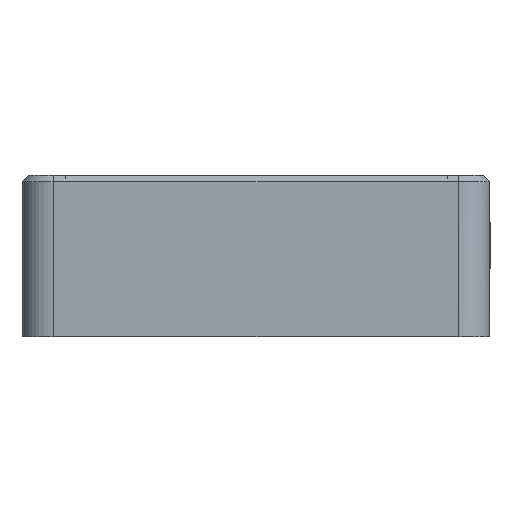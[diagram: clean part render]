
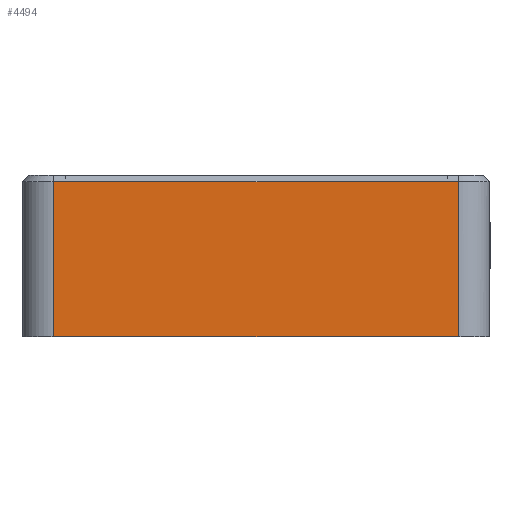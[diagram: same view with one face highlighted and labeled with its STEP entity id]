
A CAD part, left-side view. The second image highlights one B-rep face of the part: STEP entity #4494.
In plain terms, the highlighted free-form (B-spline) face has degree [1, 1] with [2, 2] control points.
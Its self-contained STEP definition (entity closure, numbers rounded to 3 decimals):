
#42 = ( BOUNDED_SURFACE() B_SPLINE_SURFACE(2,1,(
    (#43,#44)
    ,(#45,#46)
,(#47,#48
  )),.UNSPECIFIED.,.F.,.F.,.F.) B_SPLINE_SURFACE_WITH_KNOTS((3,3),(2,2),
  (0.,1.571),(0.,14.595),
.PIECEWISE_BEZIER_KNOTS.) GEOMETRIC_REPRESENTATION_ITEM() 
RATIONAL_B_SPLINE_SURFACE((
    (1.,1.)
    ,(0.707,0.707)
,(1.,1.))) REPRESENTATION_ITEM('') SURFACE() );
#43 = CARTESIAN_POINT('',(1.,-42.,0.4));
#44 = CARTESIAN_POINT('',(1.,-42.,14.995));
#45 = CARTESIAN_POINT('',(-2.,-42.,0.4));
#46 = CARTESIAN_POINT('',(-2.,-42.,14.995));
#47 = CARTESIAN_POINT('',(-2.,-39.,0.4));
#48 = CARTESIAN_POINT('',(-2.,-39.,14.995));
#1241 = B_SPLINE_SURFACE_WITH_KNOTS('',1,1,(
    (#1242,#1243)
    ,(#1244,#1245
    )),.UNSPECIFIED.,.F.,.F.,.F.,(2,2),(2,2),(-96.4,-84.042),(
    -22.,22.),.PIECEWISE_BEZIER_KNOTS.);
#1242 = CARTESIAN_POINT('',(-2.,-42.,0.4));
#1243 = CARTESIAN_POINT('',(-2.,2.,0.4));
#1244 = CARTESIAN_POINT('',(10.358,-42.,0.4));
#1245 = CARTESIAN_POINT('',(10.358,2.,0.4));
#1257 = VERTEX_POINT('',#1258);
#1258 = CARTESIAN_POINT('',(-2.,-39.,0.4));
#1279 = EDGE_CURVE('',#1257,#1280,#1282,.T.);
#1280 = VERTEX_POINT('',#1281);
#1281 = CARTESIAN_POINT('',(-2.,-39.,14.995));
#1282 = SURFACE_CURVE('',#1283,(#1286,#1293),.PCURVE_S1.);
#1283 = B_SPLINE_CURVE_WITH_KNOTS('',1,(#1284,#1285),.UNSPECIFIED.,.F.,
  .F.,(2,2),(-0.,14.595),.PIECEWISE_BEZIER_KNOTS.);
#1284 = CARTESIAN_POINT('',(-2.,-39.,0.4));
#1285 = CARTESIAN_POINT('',(-2.,-39.,14.995));
#1286 = PCURVE('',#42,#1287);
#1287 = DEFINITIONAL_REPRESENTATION('',(#1288),#1292);
#1288 = B_SPLINE_CURVE_WITH_KNOTS('',2,(#1289,#1290,#1291),
  .UNSPECIFIED.,.F.,.F.,(3,3),(-0.,14.595),.PIECEWISE_BEZIER_KNOTS.);
#1289 = CARTESIAN_POINT('',(1.571,0.));
#1290 = CARTESIAN_POINT('',(1.571,7.298));
#1291 = CARTESIAN_POINT('',(1.571,14.595));
#1292 = ( GEOMETRIC_REPRESENTATION_CONTEXT(2) 
PARAMETRIC_REPRESENTATION_CONTEXT() REPRESENTATION_CONTEXT('2D SPACE',''
  ) );
#1293 = PCURVE('',#1294,#1299);
#1294 = B_SPLINE_SURFACE_WITH_KNOTS('',1,1,(
    (#1295,#1296)
    ,(#1297,#1298
    )),.UNSPECIFIED.,.F.,.F.,.F.,(2,2),(2,2),(3.,41.),(-14.595,
    0.),.PIECEWISE_BEZIER_KNOTS.);
#1295 = CARTESIAN_POINT('',(-2.,-1.,14.995));
#1296 = CARTESIAN_POINT('',(-2.,-1.,0.4));
#1297 = CARTESIAN_POINT('',(-2.,-39.,14.995));
#1298 = CARTESIAN_POINT('',(-2.,-39.,0.4));
#1299 = DEFINITIONAL_REPRESENTATION('',(#1300),#1303);
#1300 = B_SPLINE_CURVE_WITH_KNOTS('',1,(#1301,#1302),.UNSPECIFIED.,.F.,
  .F.,(2,2),(-0.,14.595),.PIECEWISE_BEZIER_KNOTS.);
#1301 = CARTESIAN_POINT('',(41.,0.));
#1302 = CARTESIAN_POINT('',(41.,-14.595));
#1303 = ( GEOMETRIC_REPRESENTATION_CONTEXT(2) 
PARAMETRIC_REPRESENTATION_CONTEXT() REPRESENTATION_CONTEXT('2D SPACE',''
  ) );
#1644 = VERTEX_POINT('',#1645);
#1645 = CARTESIAN_POINT('',(-2.,-1.,0.4));
#1659 = ( BOUNDED_SURFACE() B_SPLINE_SURFACE(2,1,(
    (#1660,#1661)
    ,(#1662,#1663)
    ,(#1664,#1665
)),.UNSPECIFIED.,.F.,.F.,.F.) B_SPLINE_SURFACE_WITH_KNOTS((3,3),(2,2),(
    0.,1.571),(0.,14.595),
.PIECEWISE_BEZIER_KNOTS.) GEOMETRIC_REPRESENTATION_ITEM() 
RATIONAL_B_SPLINE_SURFACE((
    (1.,1.)
    ,(0.707,0.707)
,(1.,1.))) REPRESENTATION_ITEM('') SURFACE() );
#1660 = CARTESIAN_POINT('',(1.,2.,0.4));
#1661 = CARTESIAN_POINT('',(1.,2.,14.995));
#1662 = CARTESIAN_POINT('',(-2.,2.,0.4));
#1663 = CARTESIAN_POINT('',(-2.,2.,14.995));
#1664 = CARTESIAN_POINT('',(-2.,-1.,0.4));
#1665 = CARTESIAN_POINT('',(-2.,-1.,14.995));
#1673 = EDGE_CURVE('',#1644,#1257,#1674,.T.);
#1674 = SURFACE_CURVE('',#1675,(#1678,#1684),.PCURVE_S1.);
#1675 = B_SPLINE_CURVE_WITH_KNOTS('',1,(#1676,#1677),.UNSPECIFIED.,.F.,
  .F.,(2,2),(3.,41.),.PIECEWISE_BEZIER_KNOTS.);
#1676 = CARTESIAN_POINT('',(-2.,-1.,0.4));
#1677 = CARTESIAN_POINT('',(-2.,-39.,0.4));
#1678 = PCURVE('',#1241,#1679);
#1679 = DEFINITIONAL_REPRESENTATION('',(#1680),#1683);
#1680 = B_SPLINE_CURVE_WITH_KNOTS('',1,(#1681,#1682),.UNSPECIFIED.,.F.,
  .F.,(2,2),(3.,41.),.PIECEWISE_BEZIER_KNOTS.);
#1681 = CARTESIAN_POINT('',(-96.4,19.));
#1682 = CARTESIAN_POINT('',(-96.4,-19.));
#1683 = ( GEOMETRIC_REPRESENTATION_CONTEXT(2) 
PARAMETRIC_REPRESENTATION_CONTEXT() REPRESENTATION_CONTEXT('2D SPACE',''
  ) );
#1684 = PCURVE('',#1294,#1685);
#1685 = DEFINITIONAL_REPRESENTATION('',(#1686),#1689);
#1686 = B_SPLINE_CURVE_WITH_KNOTS('',1,(#1687,#1688),.UNSPECIFIED.,.F.,
  .F.,(2,2),(3.,41.),.PIECEWISE_BEZIER_KNOTS.);
#1687 = CARTESIAN_POINT('',(3.,0.));
#1688 = CARTESIAN_POINT('',(41.,0.));
#1689 = ( GEOMETRIC_REPRESENTATION_CONTEXT(2) 
PARAMETRIC_REPRESENTATION_CONTEXT() REPRESENTATION_CONTEXT('2D SPACE',''
  ) );
#4461 = B_SPLINE_SURFACE_WITH_KNOTS('',1,1,(
    (#4462,#4463)
    ,(#4464,#4465
    )),.UNSPECIFIED.,.F.,.F.,.F.,(2,2),(2,2),(0.,38.),(
    -0.424,0.424),.PIECEWISE_BEZIER_KNOTS.);
#4462 = CARTESIAN_POINT('',(-2.,-1.,14.995));
#4463 = CARTESIAN_POINT('',(-1.4,-1.,15.595));
#4464 = CARTESIAN_POINT('',(-2.,-39.,14.995));
#4465 = CARTESIAN_POINT('',(-1.4,-39.,15.595));
#4494 = ADVANCED_FACE('',(#4495),#1294,.F.);
#4495 = FACE_BOUND('',#4496,.F.);
#4496 = EDGE_LOOP('',(#4497,#4518,#4536,#4537));
#4497 = ORIENTED_EDGE('',*,*,#4498,.T.);
#4498 = EDGE_CURVE('',#1644,#4499,#4501,.T.);
#4499 = VERTEX_POINT('',#4500);
#4500 = CARTESIAN_POINT('',(-2.,-1.,14.995));
#4501 = SURFACE_CURVE('',#4502,(#4505,#4511),.PCURVE_S1.);
#4502 = B_SPLINE_CURVE_WITH_KNOTS('',1,(#4503,#4504),.UNSPECIFIED.,.F.,
  .F.,(2,2),(0.,14.595),.PIECEWISE_BEZIER_KNOTS.);
#4503 = CARTESIAN_POINT('',(-2.,-1.,0.4));
#4504 = CARTESIAN_POINT('',(-2.,-1.,14.995));
#4505 = PCURVE('',#1294,#4506);
#4506 = DEFINITIONAL_REPRESENTATION('',(#4507),#4510);
#4507 = B_SPLINE_CURVE_WITH_KNOTS('',1,(#4508,#4509),.UNSPECIFIED.,.F.,
  .F.,(2,2),(0.,14.595),.PIECEWISE_BEZIER_KNOTS.);
#4508 = CARTESIAN_POINT('',(3.,0.));
#4509 = CARTESIAN_POINT('',(3.,-14.595));
#4510 = ( GEOMETRIC_REPRESENTATION_CONTEXT(2) 
PARAMETRIC_REPRESENTATION_CONTEXT() REPRESENTATION_CONTEXT('2D SPACE',''
  ) );
#4511 = PCURVE('',#1659,#4512);
#4512 = DEFINITIONAL_REPRESENTATION('',(#4513),#4517);
#4513 = B_SPLINE_CURVE_WITH_KNOTS('',2,(#4514,#4515,#4516),
  .UNSPECIFIED.,.F.,.F.,(3,3),(0.,14.595),
  .PIECEWISE_BEZIER_KNOTS.);
#4514 = CARTESIAN_POINT('',(1.571,0.));
#4515 = CARTESIAN_POINT('',(1.571,7.298));
#4516 = CARTESIAN_POINT('',(1.571,14.595));
#4517 = ( GEOMETRIC_REPRESENTATION_CONTEXT(2) 
PARAMETRIC_REPRESENTATION_CONTEXT() REPRESENTATION_CONTEXT('2D SPACE',''
  ) );
#4518 = ORIENTED_EDGE('',*,*,#4519,.T.);
#4519 = EDGE_CURVE('',#4499,#1280,#4520,.T.);
#4520 = SURFACE_CURVE('',#4521,(#4524,#4530),.PCURVE_S1.);
#4521 = B_SPLINE_CURVE_WITH_KNOTS('',1,(#4522,#4523),.UNSPECIFIED.,.F.,
  .F.,(2,2),(0.,38.),.PIECEWISE_BEZIER_KNOTS.);
#4522 = CARTESIAN_POINT('',(-2.,-1.,14.995));
#4523 = CARTESIAN_POINT('',(-2.,-39.,14.995));
#4524 = PCURVE('',#1294,#4525);
#4525 = DEFINITIONAL_REPRESENTATION('',(#4526),#4529);
#4526 = B_SPLINE_CURVE_WITH_KNOTS('',1,(#4527,#4528),.UNSPECIFIED.,.F.,
  .F.,(2,2),(0.,38.),.PIECEWISE_BEZIER_KNOTS.);
#4527 = CARTESIAN_POINT('',(3.,-14.595));
#4528 = CARTESIAN_POINT('',(41.,-14.595));
#4529 = ( GEOMETRIC_REPRESENTATION_CONTEXT(2) 
PARAMETRIC_REPRESENTATION_CONTEXT() REPRESENTATION_CONTEXT('2D SPACE',''
  ) );
#4530 = PCURVE('',#4461,#4531);
#4531 = DEFINITIONAL_REPRESENTATION('',(#4532),#4535);
#4532 = B_SPLINE_CURVE_WITH_KNOTS('',1,(#4533,#4534),.UNSPECIFIED.,.F.,
  .F.,(2,2),(0.,38.),.PIECEWISE_BEZIER_KNOTS.);
#4533 = CARTESIAN_POINT('',(0.,-0.424));
#4534 = CARTESIAN_POINT('',(38.,-0.424));
#4535 = ( GEOMETRIC_REPRESENTATION_CONTEXT(2) 
PARAMETRIC_REPRESENTATION_CONTEXT() REPRESENTATION_CONTEXT('2D SPACE',''
  ) );
#4536 = ORIENTED_EDGE('',*,*,#1279,.F.);
#4537 = ORIENTED_EDGE('',*,*,#1673,.F.);
